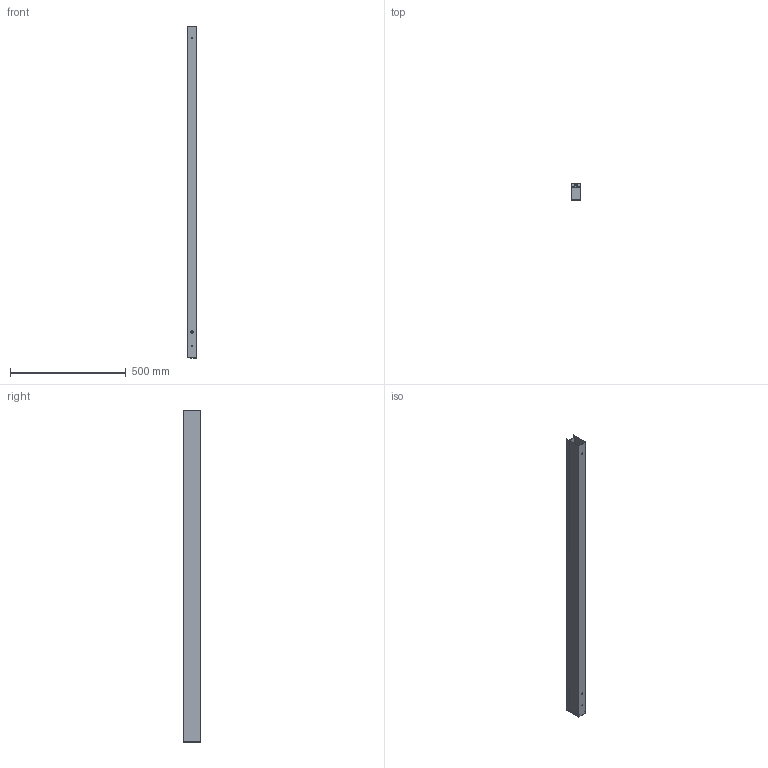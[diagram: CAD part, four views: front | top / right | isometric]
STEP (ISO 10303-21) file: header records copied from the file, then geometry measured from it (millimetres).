
FILE_DESCRIPTION (( 'STEP AP214' ), '1' );
FILE_NAME ('LINE RP-RF 30 INICIAL.STEP', '2017-08-23T09:44:01', ( 'Ofitecnic3' ), ( 'Microsoft' ), 'SwSTEP 2.0', 'SolidWorks 2016', '' );
FILE_SCHEMA (( 'AUTOMOTIVE_DESIGN' ));
Length unit declared in the file: millimetre
Products named in the file (4): Difusor plástico-BIM_LED-1430mm; Tapa (LineR)-BIM; Perfil_extrusion (LineR)-BIM_LR2016-1430; LINE RP-RF 30 INICIAL
Assembly tree (3 placements, depth 2):
  LINE RP-RF 30 INICIAL
    Perfil_extrusion (LineR)-BIM_LR2016-1430
    Tapa (LineR)-BIM
    Difusor plástico-BIM_LED-1430mm
Bounding box: 42.5 x 74.75 x 1432.5 mm (x, y, z)
Volume: 612414.6 mm3; surface area: 689355.8 mm2
Topology: 3 solids, 3 shells, 237 faces, 592 edges, 370 vertices
Faces by surface type: plane 108, cylinder 86, bspline 41, sphere 2
Entity records: 8677 total; most frequent: CARTESIAN_POINT 3301, ORIENTED_EDGE 1180, DIRECTION 967, EDGE_CURVE 590, VERTEX_POINT 370, LINE 355, VECTOR 355, AXIS2_PLACEMENT_3D 306
